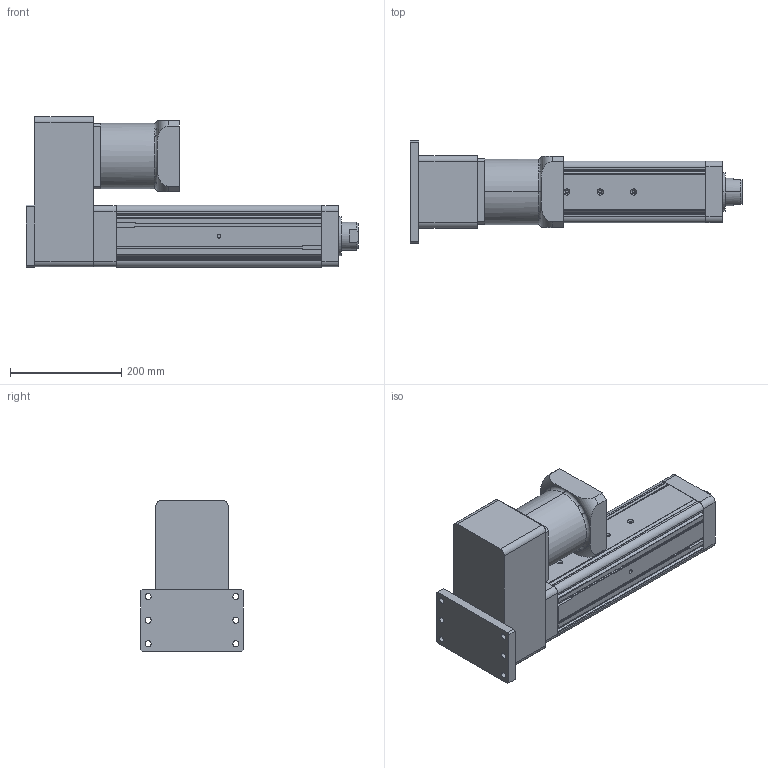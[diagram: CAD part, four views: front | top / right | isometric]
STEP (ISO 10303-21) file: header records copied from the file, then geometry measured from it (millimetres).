
FILE_DESCRIPTION (( 'STEP AP203' ), '1' );
FILE_NAME ('YRJ110-L200-H4K2.STEP', '2020-01-06T01:49:07', ( 'User' ), ( 'China' ), 'SwSTEP 2.0', 'SolidWorks 2016', '' );
FILE_SCHEMA (( 'CONFIG_CONTROL_DESIGN' ));
Length unit declared in the file: millimetre
Products named in the file (8): H5-110-1; 萇儂碟-110; H3-110-2; H4-110; 120遺1500W珨撰熬厒儂; K2-110; YRJ110-L200-H4K2; 095-100俴最倰第
Assembly tree (7 placements, depth 2):
  YRJ110-L200-H4K2
    095-100俴最倰第
    H5-110-1
    萇儂碟-110
    H3-110-2
    H4-110
    120遺1500W珨撰熬厒儂
    K2-110
Bounding box: 597 x 185 x 271 mm (x, y, z)
Volume: 8226283.1 mm3; surface area: 746334.6 mm2
Topology: 7 solids, 7 shells, 320 faces, 865 edges, 553 vertices
Faces by surface type: plane 160, cylinder 122, cone 29, torus 5, bspline 4
Entity records: 11223 total; most frequent: CARTESIAN_POINT 2196, DIRECTION 1739, ORIENTED_EDGE 1698, EDGE_CURVE 849, AXIS2_PLACEMENT_3D 602, VERTEX_POINT 553, VECTOR 535, LINE 535
